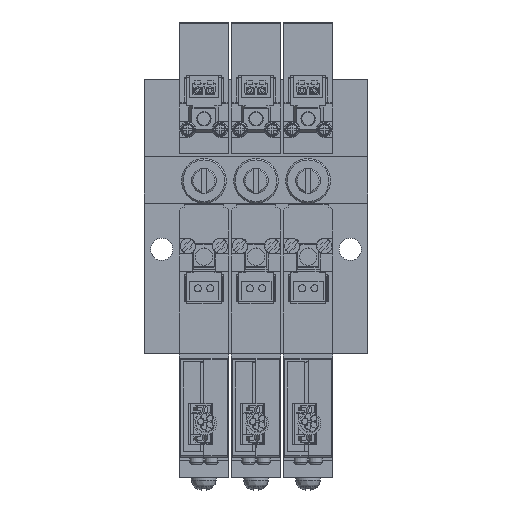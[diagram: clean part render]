
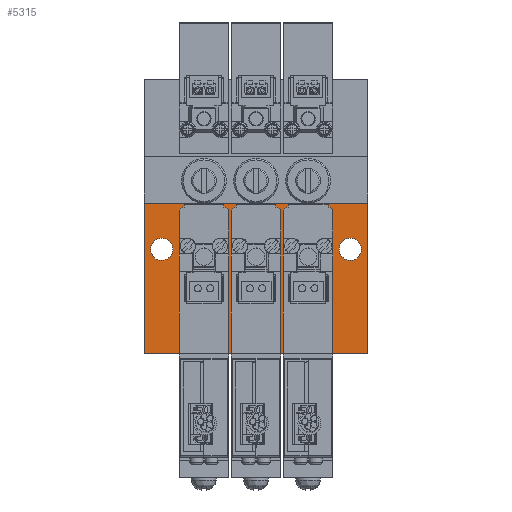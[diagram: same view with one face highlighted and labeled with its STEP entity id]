
A CAD part, top view. The second image highlights one B-rep face of the part: STEP entity #5315.
In plain terms, the highlighted planar face has unit normal (0, 0, 1).
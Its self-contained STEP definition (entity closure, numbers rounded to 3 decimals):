
#5315=ADVANCED_FACE('',(#9179,#9180,#9181),#9182,.F.);
#9179=FACE_BOUND('',#17072,.T.);
#9180=FACE_BOUND('',#17073,.T.);
#9181=FACE_OUTER_BOUND('',#17074,.T.);
#9182=PLANE('',#17075);
#17072=EDGE_LOOP('',(#26054));
#17073=EDGE_LOOP('',(#26055));
#17074=EDGE_LOOP('',(#26056,#26057,#26058,#26059));
#17075=AXIS2_PLACEMENT_3D('',#26060,#26061,#26062);
#26054=ORIENTED_EDGE('',*,*,#56502,.F.);
#26055=ORIENTED_EDGE('',*,*,#56503,.F.);
#26056=ORIENTED_EDGE('',*,*,#56504,.F.);
#26057=ORIENTED_EDGE('',*,*,#56505,.F.);
#26058=ORIENTED_EDGE('',*,*,#56506,.T.);
#26059=ORIENTED_EDGE('',*,*,#56500,.T.);
#26060=CARTESIAN_POINT('',(-45.0,30.3,14.8));
#26061=DIRECTION('',(0.0,0.0,-1.0));
#26062=DIRECTION('',(1.0,0.0,0.0));
#56500=EDGE_CURVE('',#66323,#66321,#66324,.T.);
#56502=EDGE_CURVE('',#66326,#66326,#66327,.T.);
#56503=EDGE_CURVE('',#66328,#66328,#66329,.T.);
#56504=EDGE_CURVE('',#66330,#66321,#66331,.T.);
#56505=EDGE_CURVE('',#66332,#66330,#66333,.T.);
#56506=EDGE_CURVE('',#66332,#66323,#66334,.T.);
#66321=VERTEX_POINT('',#82797);
#66323=VERTEX_POINT('',#82800);
#66324=LINE('',#82801,#82802);
#66326=VERTEX_POINT('',#82805);
#66327=CIRCLE('',#82806,2.25);
#66328=VERTEX_POINT('',#82807);
#66329=CIRCLE('',#82808,2.25);
#66330=VERTEX_POINT('',#82809);
#66331=LINE('',#82810,#82811);
#66332=VERTEX_POINT('',#82812);
#66333=LINE('',#82813,#82814);
#66334=LINE('',#82815,#82816);
#82797=CARTESIAN_POINT('',(0.0,0.,14.8));
#82800=CARTESIAN_POINT('',(-45.0,0.,14.8));
#82801=CARTESIAN_POINT('',(-45.0,0.,14.8));
#82802=VECTOR('',#108929,1.0);
#82805=CARTESIAN_POINT('',(-39.25,21.0,14.8));
#82806=AXIS2_PLACEMENT_3D('',#108931,#108932,#108933);
#82807=CARTESIAN_POINT('',(-1.25,21.0,14.8));
#82808=AXIS2_PLACEMENT_3D('',#108934,#108935,#108936);
#82809=CARTESIAN_POINT('',(0.0,30.3,14.8));
#82810=CARTESIAN_POINT('',(0.0,30.3,14.8));
#82811=VECTOR('',#108937,1.0);
#82812=CARTESIAN_POINT('',(-45.0,30.3,14.8));
#82813=CARTESIAN_POINT('',(-45.0,30.3,14.8));
#82814=VECTOR('',#108938,1.0);
#82815=CARTESIAN_POINT('',(-45.0,30.3,14.8));
#82816=VECTOR('',#108939,1.0);
#108929=DIRECTION('',(1.0,0.0,0.0));
#108931=CARTESIAN_POINT('',(-41.5,21.0,14.8));
#108932=DIRECTION('',(0.0,0.0,1.0));
#108933=DIRECTION('',(1.0,0.0,0.0));
#108934=CARTESIAN_POINT('',(-3.5,21.0,14.8));
#108935=DIRECTION('',(0.0,0.0,1.0));
#108936=DIRECTION('',(1.0,0.0,0.0));
#108937=DIRECTION('',(0.0,-1.0,0.0));
#108938=DIRECTION('',(1.0,0.0,0.0));
#108939=DIRECTION('',(0.0,-1.0,0.0));
